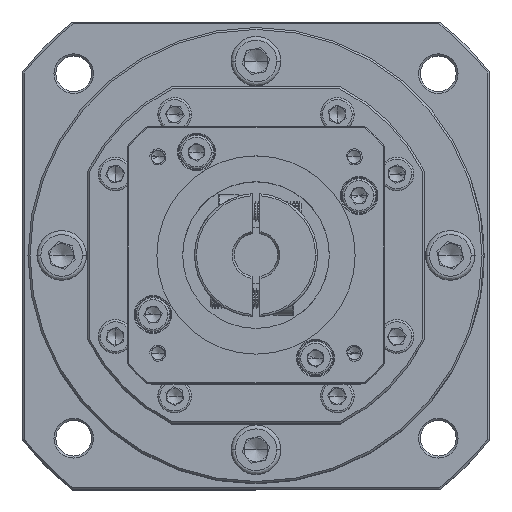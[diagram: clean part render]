
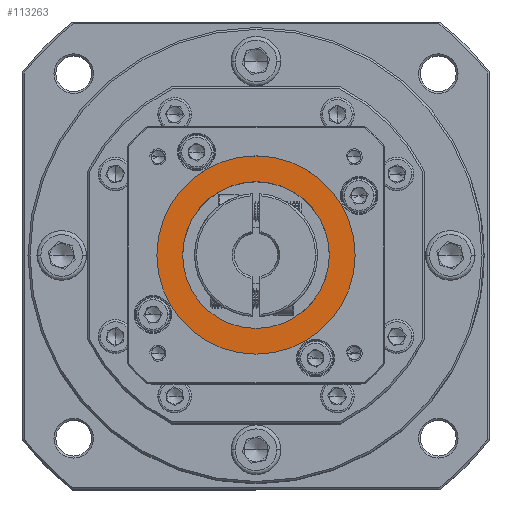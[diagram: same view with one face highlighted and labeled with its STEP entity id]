
A CAD part, top view. The second image highlights one B-rep face of the part: STEP entity #113263.
In plain terms, the highlighted planar face has unit normal (0, 0, 1).
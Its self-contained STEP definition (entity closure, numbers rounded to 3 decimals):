
#4208 = PLANE ( 'NONE',  #80974 ) ;
#4456 = VERTEX_POINT ( 'NONE', #85879 ) ;
#7037 = VERTEX_POINT ( 'NONE', #17374 ) ;
#9947 = CARTESIAN_POINT ( 'NONE',  ( -54.6, 42.005, 3.94 ) ) ;
#11479 = ORIENTED_EDGE ( 'NONE', *, *, #20984, .T. ) ;
#12120 = CARTESIAN_POINT ( 'NONE',  ( -54.6, 42.005, 3.94 ) ) ;
#15500 = DIRECTION ( 'NONE',  ( 0., 0., 1. ) ) ;
#17374 = CARTESIAN_POINT ( 'NONE',  ( -29.6, 42.005, 3.94 ) ) ;
#18822 = CARTESIAN_POINT ( 'NONE',  ( -54.6, 42.005, 3.94 ) ) ;
#18889 = DIRECTION ( 'NONE',  ( 1., 0., 0. ) ) ;
#20984 = EDGE_CURVE ( 'NONE', #7037, #96113, #39601, .T. ) ;
#21112 = DIRECTION ( 'NONE',  ( 1., 0., 0. ) ) ;
#26840 = AXIS2_PLACEMENT_3D ( 'NONE', #12120, #74552, #21112 ) ;
#27844 = DIRECTION ( 'NONE',  ( 1., 0., 0. ) ) ;
#33868 = FACE_OUTER_BOUND ( 'NONE', #65409, .T. ) ;
#39029 = ORIENTED_EDGE ( 'NONE', *, *, #54616, .T. ) ;
#39601 = CIRCLE ( 'NONE', #112765, 25. ) ;
#43654 = CIRCLE ( 'NONE', #54351, 18.5 ) ;
#49077 = DIRECTION ( 'NONE',  ( 0., 0., 1. ) ) ;
#51581 = EDGE_CURVE ( 'NONE', #96113, #7037, #102950, .T. ) ;
#54351 = AXIS2_PLACEMENT_3D ( 'NONE', #9947, #72368, #18889 ) ;
#54616 = EDGE_CURVE ( 'NONE', #4456, #98551, #43654, .T. ) ;
#55513 = CARTESIAN_POINT ( 'NONE',  ( -73.1, 42.005, 3.94 ) ) ;
#55700 = EDGE_CURVE ( 'NONE', #98551, #4456, #86403, .T. ) ;
#57550 = FACE_BOUND ( 'NONE', #99277, .T. ) ;
#64268 = CARTESIAN_POINT ( 'NONE',  ( -79.6, 42.005, 3.94 ) ) ;
#65409 = EDGE_LOOP ( 'NONE', ( #11479, #82228 ) ) ;
#68980 = CARTESIAN_POINT ( 'NONE',  ( -54.6, 42.005, 3.94 ) ) ;
#72368 = DIRECTION ( 'NONE',  ( 0., 0., -1. ) ) ;
#74552 = DIRECTION ( 'NONE',  ( 0., 0., -1. ) ) ;
#77938 = DIRECTION ( 'NONE',  ( 1., 0., 0. ) ) ;
#80974 = AXIS2_PLACEMENT_3D ( 'NONE', #102489, #49077, #111464 ) ;
#81231 = DIRECTION ( 'NONE',  ( 0., 0., 1. ) ) ;
#82228 = ORIENTED_EDGE ( 'NONE', *, *, #51581, .T. ) ;
#85879 = CARTESIAN_POINT ( 'NONE',  ( -36.1, 42.005, 3.94 ) ) ;
#86403 = CIRCLE ( 'NONE', #26840, 18.5 ) ;
#90968 = ORIENTED_EDGE ( 'NONE', *, *, #55700, .T. ) ;
#96113 = VERTEX_POINT ( 'NONE', #64268 ) ;
#98551 = VERTEX_POINT ( 'NONE', #55513 ) ;
#99277 = EDGE_LOOP ( 'NONE', ( #39029, #90968 ) ) ;
#102489 = CARTESIAN_POINT ( 'NONE',  ( -54.6, 42.005, 3.94 ) ) ;
#102950 = CIRCLE ( 'NONE', #112283, 25. ) ;
#111464 = DIRECTION ( 'NONE',  ( 1., 0., 0. ) ) ;
#112283 = AXIS2_PLACEMENT_3D ( 'NONE', #18822, #81231, #27844 ) ;
#112765 = AXIS2_PLACEMENT_3D ( 'NONE', #68980, #15500, #77938 ) ;
#113263 = ADVANCED_FACE ( 'NONE', ( #33868, #57550 ), #4208, .T. ) ;
